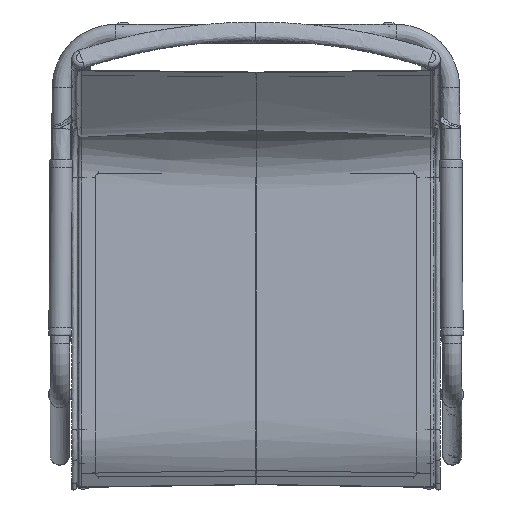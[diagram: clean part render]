
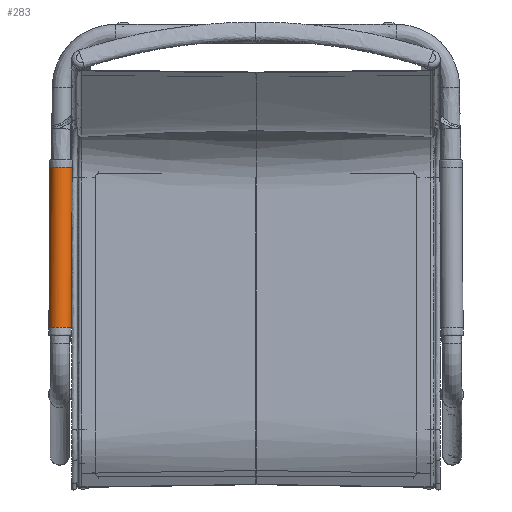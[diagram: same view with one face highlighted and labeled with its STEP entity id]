
A CAD part, top view. The second image highlights one B-rep face of the part: STEP entity #283.
In plain terms, the highlighted free-form (B-spline) face has degree [1, 2] with [2, 9] control points.
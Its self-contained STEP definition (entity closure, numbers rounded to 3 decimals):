
#283=ADVANCED_FACE('',(#429),#2402,.T.);
#429=FACE_OUTER_BOUND('',#575,.T.);
#575=EDGE_LOOP('',(#1237,#1238,#1239,#1240));
#1237=ORIENTED_EDGE('',*,*,#1629,.T.);
#1238=ORIENTED_EDGE('',*,*,#1630,.F.);
#1239=ORIENTED_EDGE('',*,*,#1629,.F.);
#1240=ORIENTED_EDGE('',*,*,#1628,.F.);
#1628=EDGE_CURVE('',#2272,#2272,#1868,.T.);
#1629=EDGE_CURVE('',#2272,#2273,#2020,.T.);
#1630=EDGE_CURVE('',#2273,#2273,#1869,.T.);
#1868=(
BOUNDED_CURVE()
B_SPLINE_CURVE(2,(#14124,#14125,#14126,#14127,#14128,#14129,#14130,#14131,
#14132),.UNSPECIFIED.,.T.,.F.)
B_SPLINE_CURVE_WITH_KNOTS((3,2,2,2,3),(0.,19.635,39.27,
58.905,78.54),.UNSPECIFIED.)
CURVE()
GEOMETRIC_REPRESENTATION_ITEM()
RATIONAL_B_SPLINE_CURVE((1.,0.707,1.,0.707,1.,0.707,
1.,0.707,1.))
REPRESENTATION_ITEM('')
);
#1869=(
BOUNDED_CURVE()
B_SPLINE_CURVE(2,(#14135,#14136,#14137,#14138,#14139,#14140,#14141,#14142,
#14143),.UNSPECIFIED.,.T.,.F.)
B_SPLINE_CURVE_WITH_KNOTS((3,2,2,2,3),(-78.54,-58.905,
-39.27,-19.635,0.),.UNSPECIFIED.)
CURVE()
GEOMETRIC_REPRESENTATION_ITEM()
RATIONAL_B_SPLINE_CURVE((1.,0.707,1.,0.707,1.,0.707,
1.,0.707,1.))
REPRESENTATION_ITEM('')
);
#2020=B_SPLINE_CURVE_WITH_KNOTS('',1,(#14133,#14134),.UNSPECIFIED.,.F.,
 .F.,(2,2),(0.,208.),.UNSPECIFIED.);
#2272=VERTEX_POINT('',#14120);
#2273=VERTEX_POINT('',#14121);
#2402=(
BOUNDED_SURFACE()
B_SPLINE_SURFACE(1,2,((#14012,#14013,#14014,#14015,#14016,#14017,#14018,
#14019,#14020),(#14021,#14022,#14023,#14024,#14025,#14026,#14027,#14028,
#14029)),.UNSPECIFIED.,.F.,.F.,.F.)
B_SPLINE_SURFACE_WITH_KNOTS((2,2),(3,2,2,2,3),(0.,208.),(0.,
19.635,39.27,58.905,78.54),
 .UNSPECIFIED.)
GEOMETRIC_REPRESENTATION_ITEM()
RATIONAL_B_SPLINE_SURFACE(((1.,0.707,1.,0.707,1.,
0.707,1.,0.707,1.),(1.,0.707,1.,0.707,
1.,0.707,1.,0.707,1.)))
REPRESENTATION_ITEM('')
SURFACE()
);
#14012=CARTESIAN_POINT('',(-253.432,146.476,611.316));
#14013=CARTESIAN_POINT('',(-267.932,146.554,611.314));
#14014=CARTESIAN_POINT('',(-267.932,146.98,625.808));
#14015=CARTESIAN_POINT('',(-267.932,147.407,640.302));
#14016=CARTESIAN_POINT('',(-253.432,147.328,640.304));
#14017=CARTESIAN_POINT('',(-238.933,147.25,640.306));
#14018=CARTESIAN_POINT('',(-238.933,146.824,625.812));
#14019=CARTESIAN_POINT('',(-238.933,146.398,611.319));
#14020=CARTESIAN_POINT('',(-253.432,146.476,611.316));
#14021=CARTESIAN_POINT('',(-254.556,-61.431,617.431));
#14022=CARTESIAN_POINT('',(-269.056,-61.353,617.429));
#14023=CARTESIAN_POINT('',(-269.056,-60.927,631.923));
#14024=CARTESIAN_POINT('',(-269.056,-60.5,646.417));
#14025=CARTESIAN_POINT('',(-254.556,-60.579,646.419));
#14026=CARTESIAN_POINT('',(-240.056,-60.657,646.421));
#14027=CARTESIAN_POINT('',(-240.056,-61.083,631.927));
#14028=CARTESIAN_POINT('',(-240.056,-61.51,617.434));
#14029=CARTESIAN_POINT('',(-254.556,-61.431,617.431));
#14120=CARTESIAN_POINT('',(-253.432,146.476,611.316));
#14121=CARTESIAN_POINT('',(-254.556,-61.431,617.431));
#14124=CARTESIAN_POINT('',(-253.432,146.476,611.316));
#14125=CARTESIAN_POINT('',(-267.932,146.554,611.314));
#14126=CARTESIAN_POINT('',(-267.932,146.98,625.808));
#14127=CARTESIAN_POINT('',(-267.932,147.407,640.302));
#14128=CARTESIAN_POINT('',(-253.432,147.328,640.304));
#14129=CARTESIAN_POINT('',(-238.933,147.25,640.306));
#14130=CARTESIAN_POINT('',(-238.933,146.824,625.812));
#14131=CARTESIAN_POINT('',(-238.933,146.398,611.319));
#14132=CARTESIAN_POINT('',(-253.432,146.476,611.316));
#14133=CARTESIAN_POINT('',(-253.432,146.476,611.316));
#14134=CARTESIAN_POINT('',(-254.556,-61.431,617.431));
#14135=CARTESIAN_POINT('',(-254.556,-61.431,617.431));
#14136=CARTESIAN_POINT('',(-240.056,-61.51,617.434));
#14137=CARTESIAN_POINT('',(-240.056,-61.083,631.927));
#14138=CARTESIAN_POINT('',(-240.056,-60.657,646.421));
#14139=CARTESIAN_POINT('',(-254.556,-60.579,646.419));
#14140=CARTESIAN_POINT('',(-269.056,-60.5,646.417));
#14141=CARTESIAN_POINT('',(-269.056,-60.927,631.923));
#14142=CARTESIAN_POINT('',(-269.056,-61.353,617.429));
#14143=CARTESIAN_POINT('',(-254.556,-61.431,617.431));
